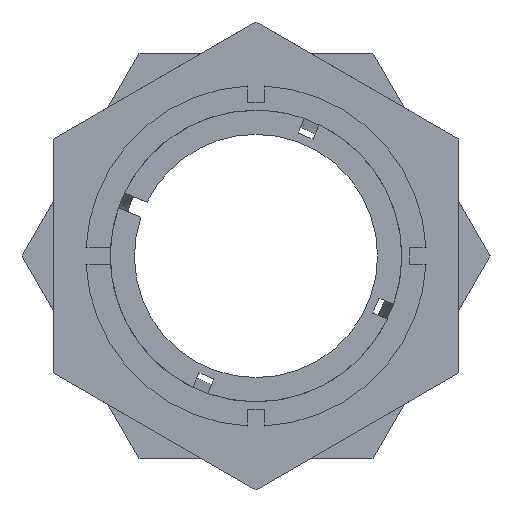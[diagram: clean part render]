
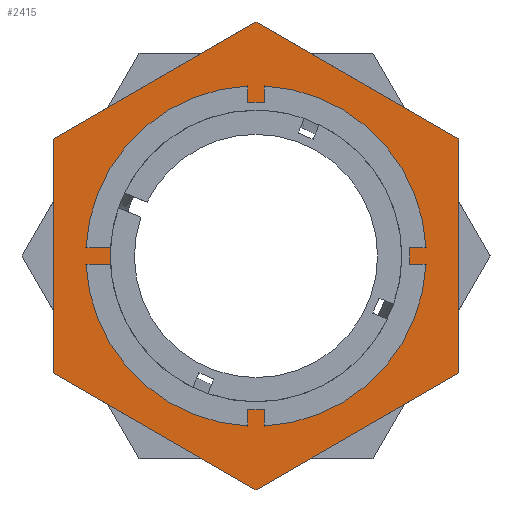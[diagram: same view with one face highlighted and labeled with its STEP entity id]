
A CAD part, left-side view. The second image highlights one B-rep face of the part: STEP entity #2415.
In plain terms, the highlighted planar face has unit normal (-1, 0, 0).
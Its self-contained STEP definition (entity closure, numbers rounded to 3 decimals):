
#2 = PLANE ( 'NONE',  #172 ) ;
#172 = AXIS2_PLACEMENT_3D ( 'NONE', #2464, #2450, #2451 ) ;
#345 = VERTEX_POINT ( 'NONE', #474 ) ;
#346 = VERTEX_POINT ( 'NONE', #475 ) ;
#347 = VERTEX_POINT ( 'NONE', #476 ) ;
#348 = VERTEX_POINT ( 'NONE', #477 ) ;
#349 = VERTEX_POINT ( 'NONE', #478 ) ;
#350 = VERTEX_POINT ( 'NONE', #479 ) ;
#351 = VERTEX_POINT ( 'NONE', #480 ) ;
#352 = VERTEX_POINT ( 'NONE', #481 ) ;
#474 = CARTESIAN_POINT ( 'NONE',  ( 23.52, 0., -18.001 ) ) ;
#475 = CARTESIAN_POINT ( 'NONE',  ( 23.52, 0., 18.001 ) ) ;
#476 = CARTESIAN_POINT ( 'NONE',  ( 23.52, 0., 28.868 ) ) ;
#477 = CARTESIAN_POINT ( 'NONE',  ( 23.52, 25., 14.434 ) ) ;
#478 = CARTESIAN_POINT ( 'NONE',  ( 23.52, 25., -14.434 ) ) ;
#479 = CARTESIAN_POINT ( 'NONE',  ( 23.52, 0., -28.868 ) ) ;
#480 = CARTESIAN_POINT ( 'NONE',  ( 23.52, -25., -14.434 ) ) ;
#481 = CARTESIAN_POINT ( 'NONE',  ( 23.52, -25., 14.434 ) ) ;
#594 = CARTESIAN_POINT ( 'NONE',  ( 23.52, -25., -14.434 ) ) ;
#597 = CARTESIAN_POINT ( 'NONE',  ( 23.52, 0., 0. ) ) ;
#599 = DIRECTION ( 'NONE',  ( -1., 0., 0. ) ) ;
#600 = DIRECTION ( 'NONE',  ( 0., 0., 1. ) ) ;
#601 = CARTESIAN_POINT ( 'NONE',  ( 23.52, -25., 14.434 ) ) ;
#602 = DIRECTION ( 'NONE',  ( 0., -0.866, 0.5 ) ) ;
#603 = DIRECTION ( 'NONE',  ( 0., 0., 1. ) ) ;
#604 = CARTESIAN_POINT ( 'NONE',  ( 23.52, 25., 14.434 ) ) ;
#605 = DIRECTION ( 'NONE',  ( 0., 0.866, -0.5 ) ) ;
#606 = CARTESIAN_POINT ( 'NONE',  ( 23.52, 25., -14.434 ) ) ;
#607 = DIRECTION ( 'NONE',  ( 0., 0., -1. ) ) ;
#616 = CARTESIAN_POINT ( 'NONE',  ( 23.52, 0., 0. ) ) ;
#617 = DIRECTION ( 'NONE',  ( -1., 0., 0. ) ) ;
#618 = DIRECTION ( 'NONE',  ( 0., 0., 1. ) ) ;
#627 = CARTESIAN_POINT ( 'NONE',  ( 23.52, 0., -28.868 ) ) ;
#630 = DIRECTION ( 'NONE',  ( 0., -0.866, -0.5 ) ) ;
#664 = CARTESIAN_POINT ( 'NONE',  ( 23.52, 0., 28.868 ) ) ;
#669 = DIRECTION ( 'NONE',  ( 0., 0.866, 0.5 ) ) ;
#1173 = EDGE_CURVE ( 'NONE', #346, #345, #1674, .T. ) ;
#1174 = EDGE_CURVE ( 'NONE', #350, #351, #1675, .T. ) ;
#1175 = EDGE_CURVE ( 'NONE', #351, #352, #1683, .T. ) ;
#1176 = EDGE_CURVE ( 'NONE', #347, #348, #1671, .T. ) ;
#1177 = EDGE_CURVE ( 'NONE', #348, #349, #1669, .T. ) ;
#1181 = EDGE_CURVE ( 'NONE', #345, #346, #1659, .T. ) ;
#1187 = EDGE_CURVE ( 'NONE', #349, #350, #1657, .T. ) ;
#1206 = EDGE_CURVE ( 'NONE', #352, #347, #1622, .T. ) ;
#1359 = AXIS2_PLACEMENT_3D ( 'NONE', #597, #599, #600 ) ;
#1363 = AXIS2_PLACEMENT_3D ( 'NONE', #616, #617, #618 ) ;
#1440 = ORIENTED_EDGE ( 'NONE', *, *, #1175, .T. ) ;
#1481 = ORIENTED_EDGE ( 'NONE', *, *, #1176, .T. ) ;
#1483 = ORIENTED_EDGE ( 'NONE', *, *, #1174, .T. ) ;
#1484 = ORIENTED_EDGE ( 'NONE', *, *, #1206, .T. ) ;
#1488 = ORIENTED_EDGE ( 'NONE', *, *, #1181, .F. ) ;
#1569 = ORIENTED_EDGE ( 'NONE', *, *, #1177, .T. ) ;
#1613 = VECTOR ( 'NONE', #669, 1000. ) ;
#1622 = LINE ( 'NONE', #664, #1613 ) ;
#1650 = VECTOR ( 'NONE', #630, 1000. ) ;
#1657 = LINE ( 'NONE', #627, #1650 ) ;
#1659 = CIRCLE ( 'NONE', #1363, 18.001 ) ;
#1668 = VECTOR ( 'NONE', #607, 1000. ) ;
#1669 = LINE ( 'NONE', #606, #1668 ) ;
#1670 = VECTOR ( 'NONE', #605, 1000. ) ;
#1671 = LINE ( 'NONE', #604, #1670 ) ;
#1673 = VECTOR ( 'NONE', #603, 1000. ) ;
#1674 = CIRCLE ( 'NONE', #1359, 18.001 ) ;
#1675 = LINE ( 'NONE', #594, #1678 ) ;
#1678 = VECTOR ( 'NONE', #602, 1000. ) ;
#1683 = LINE ( 'NONE', #601, #1673 ) ;
#1911 = EDGE_LOOP ( 'NONE', ( #1481, #1569, #2171, #1483, #1440, #1484 ) ) ;
#1923 = EDGE_LOOP ( 'NONE', ( #2130, #1488 ) ) ;
#2130 = ORIENTED_EDGE ( 'NONE', *, *, #1173, .F. ) ;
#2171 = ORIENTED_EDGE ( 'NONE', *, *, #1187, .T. ) ;
#2312 = FACE_BOUND ( 'NONE', #1923, .T. ) ;
#2317 = FACE_OUTER_BOUND ( 'NONE', #1911, .T. ) ;
#2415 = ADVANCED_FACE ( 'NONE', ( #2312, #2317 ), #2, .F. ) ;
#2450 = DIRECTION ( 'NONE',  ( 1., 0., 0. ) ) ;
#2451 = DIRECTION ( 'NONE',  ( 0., 0., -1. ) ) ;
#2464 = CARTESIAN_POINT ( 'NONE',  ( 23.52, 50., 0. ) ) ;
